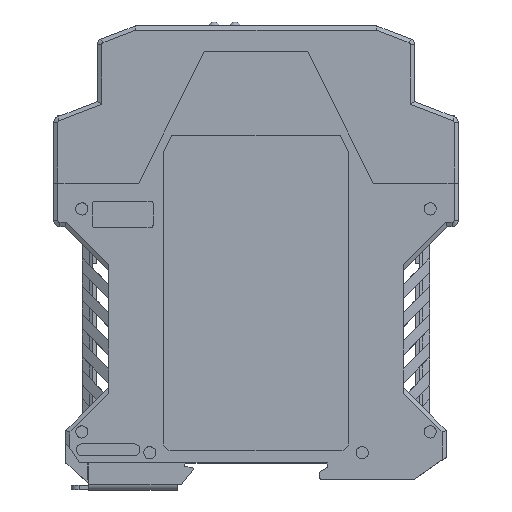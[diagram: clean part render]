
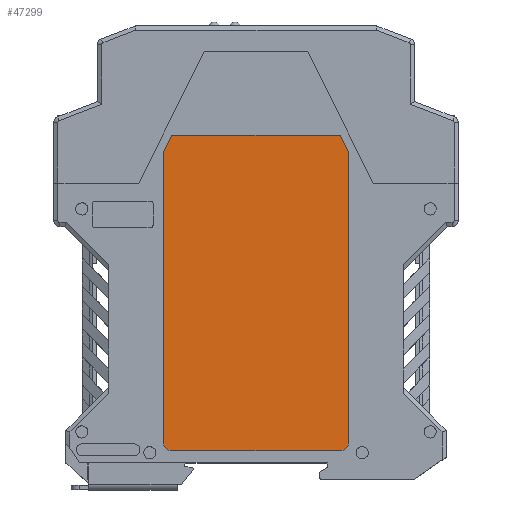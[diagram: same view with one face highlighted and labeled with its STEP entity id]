
A CAD part, top view. The second image highlights one B-rep face of the part: STEP entity #47299.
In plain terms, the highlighted planar face has unit normal (0, 0, 1).
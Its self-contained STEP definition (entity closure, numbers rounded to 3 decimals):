
#28131 = PLANE('',#28132);
#28132 = AXIS2_PLACEMENT_3D('',#28133,#28134,#28135);
#28133 = CARTESIAN_POINT('',(-20.65,11.,11.3));
#28134 = DIRECTION('',(0.,-1.,0.));
#28135 = DIRECTION('',(-1.,0.,0.));
#28160 = CYLINDRICAL_SURFACE('',#28161,2.);
#28161 = AXIS2_PLACEMENT_3D('',#28162,#28163,#28164);
#28162 = CARTESIAN_POINT('',(-20.65,13.,11.3));
#28163 = DIRECTION('',(0.,0.,1.));
#28164 = DIRECTION('',(1.,0.,-0.));
#28188 = PLANE('',#28189);
#28189 = AXIS2_PLACEMENT_3D('',#28190,#28191,#28192);
#28190 = CARTESIAN_POINT('',(-22.65,84.3,11.3));
#28191 = DIRECTION('',(-1.,0.,0.));
#28192 = DIRECTION('',(0.,1.,0.));
#28216 = PLANE('',#28217);
#28217 = AXIS2_PLACEMENT_3D('',#28218,#28219,#28220);
#28218 = CARTESIAN_POINT('',(-20.65,88.3,11.3));
#28219 = DIRECTION('',(-0.894,0.447,0.));
#28220 = DIRECTION('',(0.447,0.894,0.));
#28244 = PLANE('',#28245);
#28245 = AXIS2_PLACEMENT_3D('',#28246,#28247,#28248);
#28246 = CARTESIAN_POINT('',(20.65,88.3,11.3));
#28247 = DIRECTION('',(0.,1.,0.));
#28248 = DIRECTION('',(1.,0.,0.));
#28272 = PLANE('',#28273);
#28273 = AXIS2_PLACEMENT_3D('',#28274,#28275,#28276);
#28274 = CARTESIAN_POINT('',(22.65,84.3,11.3));
#28275 = DIRECTION('',(0.894,0.447,0.));
#28276 = DIRECTION('',(0.447,-0.894,0.));
#28300 = PLANE('',#28301);
#28301 = AXIS2_PLACEMENT_3D('',#28302,#28303,#28304);
#28302 = CARTESIAN_POINT('',(22.65,13.,11.3));
#28303 = DIRECTION('',(1.,0.,0.));
#28304 = DIRECTION('',(0.,-1.,0.));
#28327 = CYLINDRICAL_SURFACE('',#28328,2.);
#28328 = AXIS2_PLACEMENT_3D('',#28329,#28330,#28331);
#28329 = CARTESIAN_POINT('',(20.65,13.,11.3));
#28330 = DIRECTION('',(0.,0.,1.));
#28331 = DIRECTION('',(1.,0.,-0.));
#47299 = ADVANCED_FACE('',(#47300),#47314,.T.);
#47300 = FACE_BOUND('',#47301,.T.);
#47301 = EDGE_LOOP('',(#47302,#47332,#47356,#47379,#47403,#47426,#47449,
    #47472));
#47302 = ORIENTED_EDGE('',*,*,#47303,.T.);
#47303 = EDGE_CURVE('',#47304,#47306,#47308,.T.);
#47304 = VERTEX_POINT('',#47305);
#47305 = CARTESIAN_POINT('',(-22.65,84.3,11.1));
#47306 = VERTEX_POINT('',#47307);
#47307 = CARTESIAN_POINT('',(-22.65,13.,11.1));
#47308 = SURFACE_CURVE('',#47309,(#47313,#47325),.PCURVE_S1.);
#47309 = LINE('',#47310,#47311);
#47310 = CARTESIAN_POINT('',(-22.65,0.,11.1));
#47311 = VECTOR('',#47312,1.);
#47312 = DIRECTION('',(0.,-1.,0.));
#47313 = PCURVE('',#47314,#47319);
#47314 = PLANE('',#47315);
#47315 = AXIS2_PLACEMENT_3D('',#47316,#47317,#47318);
#47316 = CARTESIAN_POINT('',(6.465,83.955,11.1));
#47317 = DIRECTION('',(0.,0.,1.));
#47318 = DIRECTION('',(1.,0.,-0.));
#47319 = DEFINITIONAL_REPRESENTATION('',(#47320),#47324);
#47320 = LINE('',#47321,#47322);
#47321 = CARTESIAN_POINT('',(-29.115,-83.955));
#47322 = VECTOR('',#47323,1.);
#47323 = DIRECTION('',(0.,-1.));
#47324 = ( GEOMETRIC_REPRESENTATION_CONTEXT(2) 
PARAMETRIC_REPRESENTATION_CONTEXT() REPRESENTATION_CONTEXT('2D SPACE',''
  ) );
#47325 = PCURVE('',#28188,#47326);
#47326 = DEFINITIONAL_REPRESENTATION('',(#47327),#47331);
#47327 = LINE('',#47328,#47329);
#47328 = CARTESIAN_POINT('',(-84.3,0.2));
#47329 = VECTOR('',#47330,1.);
#47330 = DIRECTION('',(-1.,-0.));
#47331 = ( GEOMETRIC_REPRESENTATION_CONTEXT(2) 
PARAMETRIC_REPRESENTATION_CONTEXT() REPRESENTATION_CONTEXT('2D SPACE',''
  ) );
#47332 = ORIENTED_EDGE('',*,*,#47333,.T.);
#47333 = EDGE_CURVE('',#47306,#47334,#47336,.T.);
#47334 = VERTEX_POINT('',#47335);
#47335 = CARTESIAN_POINT('',(-20.65,11.,11.1));
#47336 = SURFACE_CURVE('',#47337,(#47342,#47349),.PCURVE_S1.);
#47337 = CIRCLE('',#47338,2.);
#47338 = AXIS2_PLACEMENT_3D('',#47339,#47340,#47341);
#47339 = CARTESIAN_POINT('',(-20.65,13.,11.1));
#47340 = DIRECTION('',(0.,0.,1.));
#47341 = DIRECTION('',(1.,0.,-0.));
#47342 = PCURVE('',#47314,#47343);
#47343 = DEFINITIONAL_REPRESENTATION('',(#47344),#47348);
#47344 = CIRCLE('',#47345,2.);
#47345 = AXIS2_PLACEMENT_2D('',#47346,#47347);
#47346 = CARTESIAN_POINT('',(-27.115,-70.955));
#47347 = DIRECTION('',(1.,0.));
#47348 = ( GEOMETRIC_REPRESENTATION_CONTEXT(2) 
PARAMETRIC_REPRESENTATION_CONTEXT() REPRESENTATION_CONTEXT('2D SPACE',''
  ) );
#47349 = PCURVE('',#28160,#47350);
#47350 = DEFINITIONAL_REPRESENTATION('',(#47351),#47355);
#47351 = LINE('',#47352,#47353);
#47352 = CARTESIAN_POINT('',(0.,-0.2));
#47353 = VECTOR('',#47354,1.);
#47354 = DIRECTION('',(1.,0.));
#47355 = ( GEOMETRIC_REPRESENTATION_CONTEXT(2) 
PARAMETRIC_REPRESENTATION_CONTEXT() REPRESENTATION_CONTEXT('2D SPACE',''
  ) );
#47356 = ORIENTED_EDGE('',*,*,#47357,.F.);
#47357 = EDGE_CURVE('',#47358,#47334,#47360,.T.);
#47358 = VERTEX_POINT('',#47359);
#47359 = CARTESIAN_POINT('',(20.65,11.,11.1));
#47360 = SURFACE_CURVE('',#47361,(#47365,#47372),.PCURVE_S1.);
#47361 = LINE('',#47362,#47363);
#47362 = CARTESIAN_POINT('',(0.,11.,11.1));
#47363 = VECTOR('',#47364,1.);
#47364 = DIRECTION('',(-1.,0.,0.));
#47365 = PCURVE('',#47314,#47366);
#47366 = DEFINITIONAL_REPRESENTATION('',(#47367),#47371);
#47367 = LINE('',#47368,#47369);
#47368 = CARTESIAN_POINT('',(-6.465,-72.955));
#47369 = VECTOR('',#47370,1.);
#47370 = DIRECTION('',(-1.,0.));
#47371 = ( GEOMETRIC_REPRESENTATION_CONTEXT(2) 
PARAMETRIC_REPRESENTATION_CONTEXT() REPRESENTATION_CONTEXT('2D SPACE',''
  ) );
#47372 = PCURVE('',#28131,#47373);
#47373 = DEFINITIONAL_REPRESENTATION('',(#47374),#47378);
#47374 = LINE('',#47375,#47376);
#47375 = CARTESIAN_POINT('',(-20.65,0.2));
#47376 = VECTOR('',#47377,1.);
#47377 = DIRECTION('',(1.,0.));
#47378 = ( GEOMETRIC_REPRESENTATION_CONTEXT(2) 
PARAMETRIC_REPRESENTATION_CONTEXT() REPRESENTATION_CONTEXT('2D SPACE',''
  ) );
#47379 = ORIENTED_EDGE('',*,*,#47380,.T.);
#47380 = EDGE_CURVE('',#47358,#47381,#47383,.T.);
#47381 = VERTEX_POINT('',#47382);
#47382 = CARTESIAN_POINT('',(22.65,13.,11.1));
#47383 = SURFACE_CURVE('',#47384,(#47389,#47396),.PCURVE_S1.);
#47384 = CIRCLE('',#47385,2.);
#47385 = AXIS2_PLACEMENT_3D('',#47386,#47387,#47388);
#47386 = CARTESIAN_POINT('',(20.65,13.,11.1));
#47387 = DIRECTION('',(0.,0.,1.));
#47388 = DIRECTION('',(1.,0.,-0.));
#47389 = PCURVE('',#47314,#47390);
#47390 = DEFINITIONAL_REPRESENTATION('',(#47391),#47395);
#47391 = CIRCLE('',#47392,2.);
#47392 = AXIS2_PLACEMENT_2D('',#47393,#47394);
#47393 = CARTESIAN_POINT('',(14.185,-70.955));
#47394 = DIRECTION('',(1.,0.));
#47395 = ( GEOMETRIC_REPRESENTATION_CONTEXT(2) 
PARAMETRIC_REPRESENTATION_CONTEXT() REPRESENTATION_CONTEXT('2D SPACE',''
  ) );
#47396 = PCURVE('',#28327,#47397);
#47397 = DEFINITIONAL_REPRESENTATION('',(#47398),#47402);
#47398 = LINE('',#47399,#47400);
#47399 = CARTESIAN_POINT('',(0.,-0.2));
#47400 = VECTOR('',#47401,1.);
#47401 = DIRECTION('',(1.,0.));
#47402 = ( GEOMETRIC_REPRESENTATION_CONTEXT(2) 
PARAMETRIC_REPRESENTATION_CONTEXT() REPRESENTATION_CONTEXT('2D SPACE',''
  ) );
#47403 = ORIENTED_EDGE('',*,*,#47404,.T.);
#47404 = EDGE_CURVE('',#47381,#47405,#47407,.T.);
#47405 = VERTEX_POINT('',#47406);
#47406 = CARTESIAN_POINT('',(22.65,84.3,11.1));
#47407 = SURFACE_CURVE('',#47408,(#47412,#47419),.PCURVE_S1.);
#47408 = LINE('',#47409,#47410);
#47409 = CARTESIAN_POINT('',(22.65,0.,11.1));
#47410 = VECTOR('',#47411,1.);
#47411 = DIRECTION('',(0.,1.,0.));
#47412 = PCURVE('',#47314,#47413);
#47413 = DEFINITIONAL_REPRESENTATION('',(#47414),#47418);
#47414 = LINE('',#47415,#47416);
#47415 = CARTESIAN_POINT('',(16.185,-83.955));
#47416 = VECTOR('',#47417,1.);
#47417 = DIRECTION('',(0.,1.));
#47418 = ( GEOMETRIC_REPRESENTATION_CONTEXT(2) 
PARAMETRIC_REPRESENTATION_CONTEXT() REPRESENTATION_CONTEXT('2D SPACE',''
  ) );
#47419 = PCURVE('',#28300,#47420);
#47420 = DEFINITIONAL_REPRESENTATION('',(#47421),#47425);
#47421 = LINE('',#47422,#47423);
#47422 = CARTESIAN_POINT('',(13.,0.2));
#47423 = VECTOR('',#47424,1.);
#47424 = DIRECTION('',(-1.,0.));
#47425 = ( GEOMETRIC_REPRESENTATION_CONTEXT(2) 
PARAMETRIC_REPRESENTATION_CONTEXT() REPRESENTATION_CONTEXT('2D SPACE',''
  ) );
#47426 = ORIENTED_EDGE('',*,*,#47427,.T.);
#47427 = EDGE_CURVE('',#47405,#47428,#47430,.T.);
#47428 = VERTEX_POINT('',#47429);
#47429 = CARTESIAN_POINT('',(20.65,88.3,11.1));
#47430 = SURFACE_CURVE('',#47431,(#47435,#47442),.PCURVE_S1.);
#47431 = LINE('',#47432,#47433);
#47432 = CARTESIAN_POINT('',(64.8,0.,11.1));
#47433 = VECTOR('',#47434,1.);
#47434 = DIRECTION('',(-0.447,0.894,0.));
#47435 = PCURVE('',#47314,#47436);
#47436 = DEFINITIONAL_REPRESENTATION('',(#47437),#47441);
#47437 = LINE('',#47438,#47439);
#47438 = CARTESIAN_POINT('',(58.335,-83.955));
#47439 = VECTOR('',#47440,1.);
#47440 = DIRECTION('',(-0.447,0.894));
#47441 = ( GEOMETRIC_REPRESENTATION_CONTEXT(2) 
PARAMETRIC_REPRESENTATION_CONTEXT() REPRESENTATION_CONTEXT('2D SPACE',''
  ) );
#47442 = PCURVE('',#28272,#47443);
#47443 = DEFINITIONAL_REPRESENTATION('',(#47444),#47448);
#47444 = LINE('',#47445,#47446);
#47445 = CARTESIAN_POINT('',(94.25,0.2));
#47446 = VECTOR('',#47447,1.);
#47447 = DIRECTION('',(-1.,0.));
#47448 = ( GEOMETRIC_REPRESENTATION_CONTEXT(2) 
PARAMETRIC_REPRESENTATION_CONTEXT() REPRESENTATION_CONTEXT('2D SPACE',''
  ) );
#47449 = ORIENTED_EDGE('',*,*,#47450,.T.);
#47450 = EDGE_CURVE('',#47428,#47451,#47453,.T.);
#47451 = VERTEX_POINT('',#47452);
#47452 = CARTESIAN_POINT('',(-20.65,88.3,11.1));
#47453 = SURFACE_CURVE('',#47454,(#47458,#47465),.PCURVE_S1.);
#47454 = LINE('',#47455,#47456);
#47455 = CARTESIAN_POINT('',(0.,88.3,11.1));
#47456 = VECTOR('',#47457,1.);
#47457 = DIRECTION('',(-1.,0.,0.));
#47458 = PCURVE('',#47314,#47459);
#47459 = DEFINITIONAL_REPRESENTATION('',(#47460),#47464);
#47460 = LINE('',#47461,#47462);
#47461 = CARTESIAN_POINT('',(-6.465,4.345));
#47462 = VECTOR('',#47463,1.);
#47463 = DIRECTION('',(-1.,0.));
#47464 = ( GEOMETRIC_REPRESENTATION_CONTEXT(2) 
PARAMETRIC_REPRESENTATION_CONTEXT() REPRESENTATION_CONTEXT('2D SPACE',''
  ) );
#47465 = PCURVE('',#28244,#47466);
#47466 = DEFINITIONAL_REPRESENTATION('',(#47467),#47471);
#47467 = LINE('',#47468,#47469);
#47468 = CARTESIAN_POINT('',(-20.65,0.2));
#47469 = VECTOR('',#47470,1.);
#47470 = DIRECTION('',(-1.,0.));
#47471 = ( GEOMETRIC_REPRESENTATION_CONTEXT(2) 
PARAMETRIC_REPRESENTATION_CONTEXT() REPRESENTATION_CONTEXT('2D SPACE',''
  ) );
#47472 = ORIENTED_EDGE('',*,*,#47473,.T.);
#47473 = EDGE_CURVE('',#47451,#47304,#47474,.T.);
#47474 = SURFACE_CURVE('',#47475,(#47479,#47486),.PCURVE_S1.);
#47475 = LINE('',#47476,#47477);
#47476 = CARTESIAN_POINT('',(-64.8,0.,11.1));
#47477 = VECTOR('',#47478,1.);
#47478 = DIRECTION('',(-0.447,-0.894,0.));
#47479 = PCURVE('',#47314,#47480);
#47480 = DEFINITIONAL_REPRESENTATION('',(#47481),#47485);
#47481 = LINE('',#47482,#47483);
#47482 = CARTESIAN_POINT('',(-71.265,-83.955));
#47483 = VECTOR('',#47484,1.);
#47484 = DIRECTION('',(-0.447,-0.894));
#47485 = ( GEOMETRIC_REPRESENTATION_CONTEXT(2) 
PARAMETRIC_REPRESENTATION_CONTEXT() REPRESENTATION_CONTEXT('2D SPACE',''
  ) );
#47486 = PCURVE('',#28216,#47487);
#47487 = DEFINITIONAL_REPRESENTATION('',(#47488),#47492);
#47488 = LINE('',#47489,#47490);
#47489 = CARTESIAN_POINT('',(-98.722,0.2));
#47490 = VECTOR('',#47491,1.);
#47491 = DIRECTION('',(-1.,-0.));
#47492 = ( GEOMETRIC_REPRESENTATION_CONTEXT(2) 
PARAMETRIC_REPRESENTATION_CONTEXT() REPRESENTATION_CONTEXT('2D SPACE',''
  ) );
